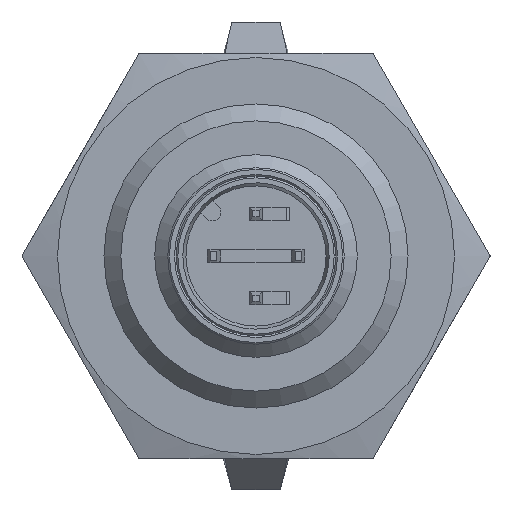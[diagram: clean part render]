
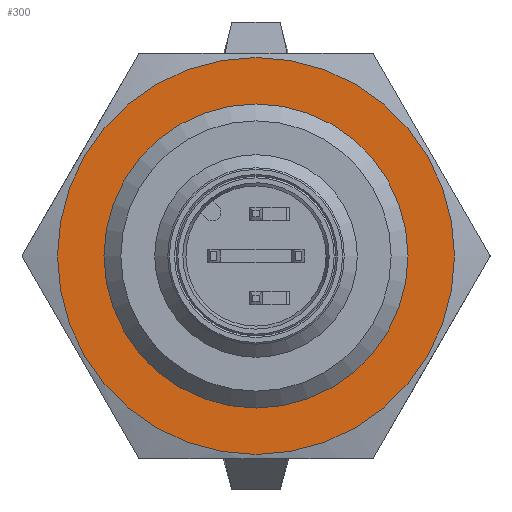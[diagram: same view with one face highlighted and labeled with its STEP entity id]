
A CAD part, left-side view. The second image highlights one B-rep face of the part: STEP entity #300.
In plain terms, the highlighted planar face has unit normal (-1, 0, 0) as drawn and (0, 1, 0) by its records, which use the part's own axes.
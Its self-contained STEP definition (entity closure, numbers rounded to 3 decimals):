
#300 = ADVANCED_FACE( '', ( #655, #656 ), #657, .T. );
#655 = FACE_BOUND( '', #1055, .T. );
#656 = FACE_OUTER_BOUND( '', #1056, .T. );
#657 = PLANE( '', #1057 );
#1055 = EDGE_LOOP( '', ( #1869 ) );
#1056 = EDGE_LOOP( '', ( #1870 ) );
#1057 = AXIS2_PLACEMENT_3D( '', #1871, #1872, #1873 );
#1869 = ORIENTED_EDGE( '', *, *, #2517, .F. );
#1870 = ORIENTED_EDGE( '', *, *, #2501, .F. );
#1871 = CARTESIAN_POINT( '', ( 0., 2., 0. ) );
#1872 = DIRECTION( '', ( 0., 1., 0. ) );
#1873 = DIRECTION( '', ( 0., 0., 1. ) );
#2501 = EDGE_CURVE( '', #3078, #3078, #3079, .T. );
#2517 = EDGE_CURVE( '', #3102, #3102, #3103, .T. );
#3078 = VERTEX_POINT( '', #4051 );
#3079 = CIRCLE( '', #4052, 11.75 );
#3102 = VERTEX_POINT( '', #4102 );
#3103 = CIRCLE( '', #4103, 8.459 );
#4051 = CARTESIAN_POINT( '', ( 0., 2., -11.75 ) );
#4052 = AXIS2_PLACEMENT_3D( '', #4693, #4694, #4695 );
#4102 = CARTESIAN_POINT( '', ( 0., 2., 8.459 ) );
#4103 = AXIS2_PLACEMENT_3D( '', #4718, #4719, #4720 );
#4693 = CARTESIAN_POINT( '', ( 0., 2., 0. ) );
#4694 = DIRECTION( '', ( 0., -1., 0. ) );
#4695 = DIRECTION( '', ( 0., 0., -1. ) );
#4718 = CARTESIAN_POINT( '', ( 0., 2., 0. ) );
#4719 = DIRECTION( '', ( 0., 1., 0. ) );
#4720 = DIRECTION( '', ( 0., 0., 1. ) );
